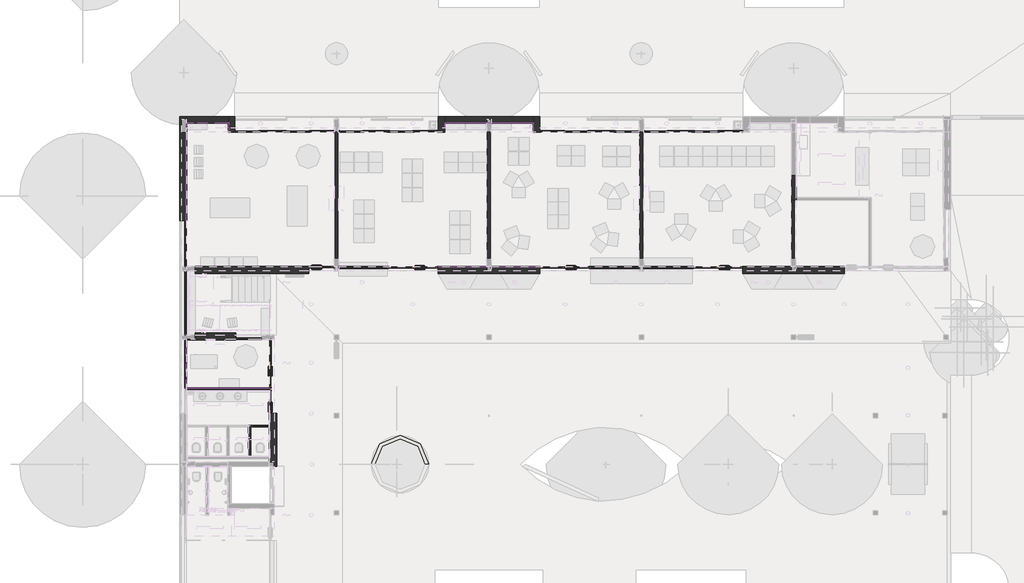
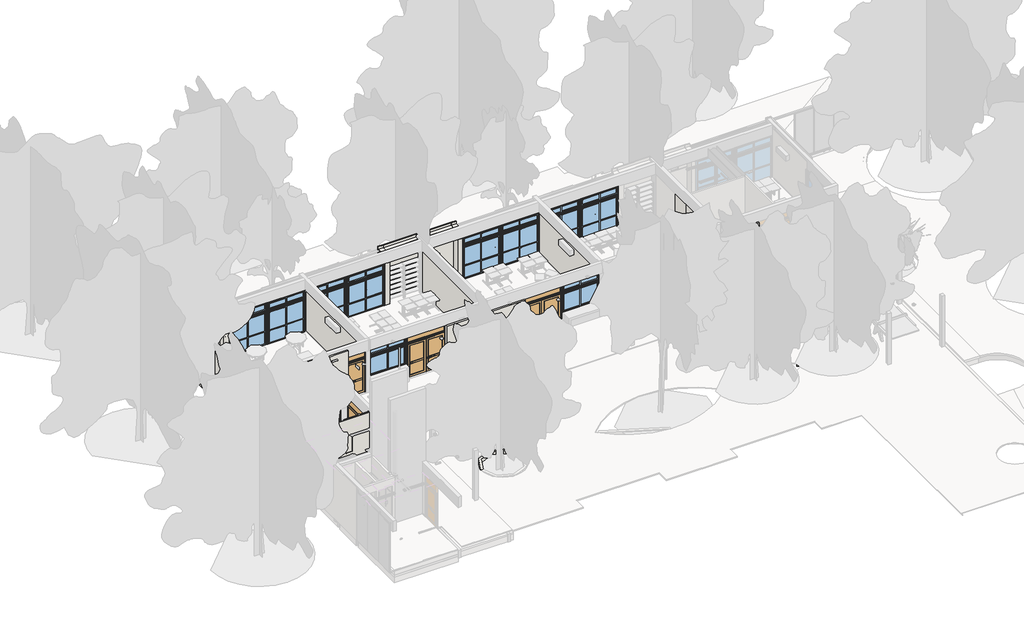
# One storey, part 5 of 22: 25 walls, 11 windows, 8 proxies, 7 doors.
"""IFC4 building model written with IfcOpenShell, lengths in millimetres."""

from ifc_helpers import new_model, si_unit, point, frame, frame_2d, origin, origin_with_axes, place, context, project, spatial, polyline, circle_curve, trimmed, segment, composite_curve, outline, extrude, faceted_brep, transform, mapped, element, save
from components import door_28f023a7, door_b16d659e, door_f8b2c67e, door_c8ef6ab0, door_3bfb12fa, a15_puerta_boxes_a15_puerta_boxes_85x150_d28bf8b2, window_bc9f6be7, window_6422c5cf, window_895a3c43, window_4296f7cd, window_2fd942e6, window_18074f74, window_fbff9aea, window_d2615f25, a16_ventana_pc_1_hoja_a16_5_ventana_pc_1_hoja_115x260_5fdb9e7e

model = new_model("IFC4")

# Units and contexts
model_context = context("Model", 3, world=origin())
ifc_project = project(units=[si_unit("LENGTHUNIT", "METRE", prefix="MILLI")], contexts=[model_context])

# Site, building, storey
site = spatial("IfcSite", under=ifc_project)
building = spatial("IfcBuilding", under=site)
storey = spatial("IfcBuildingStorey", under=building, Name="PLanta baja", Elevation=0.0)

# Proxies
placement = place(None, origin())
element("IfcBuildingElementProxy", 1, Name="23-TEL-JUNTA 10x10", ObjectType="23-TEL-JUNTA 10x10", at=placement, inside=storey, context=model_context, shape_type="SweptSolid", body=[
    extrude(outline(polyline([(19098.7173693, 31020.2304035), (19088.7173693, 31020.2304035), (19088.7173693, 31220.2304035), (19098.7173693, 31220.2304035), (19098.7173693, 31020.2304035)])), frame((0.0, 0.0, 2590.0), z_axis=(0.0, 0.0, 1.0), x_axis=(1.0, 0.0, 0.0)), (0.0, 0.0, 1.0), 10.0),
])
element("IfcBuildingElementProxy", 2, Name="23-TEL-JUNTA 10x10", ObjectType="23-TEL-JUNTA 10x10", at=placement, inside=storey, context=model_context, shape_type="SweptSolid", body=[
    extrude(outline(polyline([(19098.7173693, 31220.2304035), (19088.7173693, 31220.2304035), (19088.7173693, 31430.2304035), (19098.7173693, 31440.2304035), (19098.7173693, 31220.2304035)])), frame((0.0, 0.0, 3090.0), z_axis=(0.0, 0.0, 1.0), x_axis=(1.0, 0.0, 0.0)), (0.0, 0.0, 1.0), 10.0),
    extrude(outline(polyline([(15088.7173693, 31430.2304035), (15078.7173693, 31440.2304035), (19098.7173693, 31440.2304035), (19088.7173693, 31430.2304035), (15088.7173693, 31430.2304035)])), frame((0.0, 0.0, 3090.0), z_axis=(0.0, 0.0, 1.0), x_axis=(1.0, 0.0, 0.0)), (0.0, 0.0, 1.0), 10.0),
    extrude(outline(polyline([(15078.7173693, 31440.2304035), (15088.7173693, 31430.2304035), (15088.7173693, 31220.2304035), (15078.7173693, 31220.2304035), (15078.7173693, 31440.2304035)])), frame((0.0, 0.0, 3090.0), z_axis=(0.0, 0.0, 1.0), x_axis=(1.0, 0.0, 0.0)), (0.0, 0.0, 1.0), 10.0),
])
element("IfcBuildingElementProxy", 3, Name="23-TEL-JUNTA 10x10", ObjectType="23-TEL-JUNTA 10x10", at=placement, inside=storey, context=model_context, shape_type="SweptSolid", body=[
    extrude(outline(polyline([(3393.7173694, 31020.2304035), (3403.7173694, 31020.2304035), (3403.7173694, 27020.2304035), (3393.7173694, 27020.2304035), (3393.7173694, 31020.2304035)])), frame((0.0, 0.0, 3090.0), z_axis=(0.0, 0.0, 1.0), x_axis=(1.0, 0.0, 0.0)), (0.0, 0.0, 1.0), 10.0),
])
element("IfcBuildingElementProxy", 4, Name="23-TEL-JUNTA 10x10", ObjectType="23-TEL-JUNTA 10x10", at=placement, inside=storey, context=model_context, shape_type="SweptSolid", body=[
    extrude(outline(polyline([(3393.7173694, 31440.2304035), (3403.7173694, 31430.2304035), (3403.7173694, 31220.2304035), (3393.7173694, 31220.2304035), (3393.7173694, 31440.2304035)])), frame((0.0, 0.0, 3090.0), z_axis=(0.0, 0.0, 1.0), x_axis=(1.0, 0.0, 0.0)), (0.0, 0.0, 1.0), 10.0),
    extrude(outline(polyline([(3403.7173694, 31430.2304035), (3393.7173694, 31440.2304035), (5298.7173693, 31440.2304035), (5288.7173693, 31430.2304035), (3403.7173694, 31430.2304035)])), frame((0.0, 0.0, 3090.0), z_axis=(0.0, 0.0, 1.0), x_axis=(1.0, 0.0, 0.0)), (0.0, 0.0, 1.0), 10.0),
])
element("IfcBuildingElementProxy", 5, Name="23-TEL-JUNTA 10x10", ObjectType="23-TEL-JUNTA 10x10", at=placement, inside=storey, context=model_context, shape_type="SweptSolid", body=[
    extrude(outline(polyline([(5288.7173693, 31430.2304035), (5298.7173693, 31440.2304035), (5298.7173693, 31220.2304035), (5288.7173693, 31220.2304035), (5288.7173693, 31430.2304035)])), frame((0.0, 0.0, 3090.0), z_axis=(0.0, 0.0, 1.0), x_axis=(1.0, 0.0, 0.0)), (0.0, 0.0, 1.0), 10.0),
])
element("IfcBuildingElementProxy", 6, Name="23-TEL-JUNTA 10x10", ObjectType="23-TEL-JUNTA 10x10", at=placement, inside=storey, context=model_context, shape_type="SweptSolid", body=[
    extrude(outline(polyline([(5288.7173693, 31220.2304035), (5298.7173693, 31220.2304035), (5298.7173693, 31020.2304035), (5288.7173693, 31020.2304035), (5288.7173693, 31220.2304035)])), frame((0.0, 0.0, 2590.0), z_axis=(0.0, 0.0, 1.0), x_axis=(1.0, 0.0, 0.0)), (0.0, 0.0, 1.0), 10.0),
])
element("IfcBuildingElementProxy", 7, Name="23-TEL-JUNTA 10x10", ObjectType="23-TEL-JUNTA 10x10", at=placement, inside=storey, context=model_context, shape_type="SweptSolid", body=[
    extrude(outline(polyline([(3413.7173694, 19410.2304035), (3413.7173694, 19420.2304035), (7134.7173694, 19420.2304035), (7134.7173694, 19410.2304035), (3413.7173694, 19410.2304035)])), frame((0.0, 0.0, 3090.0), z_axis=(0.0, 0.0, 1.0), x_axis=(1.0, 0.0, 0.0)), (0.0, 0.0, 1.0), 10.0),
])
element("IfcBuildingElementProxy", 8, Name="23-TEL-JUNTA 10x10", ObjectType="23-TEL-JUNTA 10x10", at=placement, inside=storey, context=model_context, shape_type="SweptSolid", body=[
    extrude(outline(polyline([(14788.7173694, 24910.2304035), (14788.7173694, 24920.2304035), (19388.7173694, 24920.2304035), (19388.7173694, 24910.2304035), (14788.7173694, 24910.2304035)])), frame((0.0, 0.0, 2590.0), z_axis=(0.0, 0.0, 1.0), x_axis=(1.0, 0.0, 0.0)), (0.0, 0.0, 1.0), 10.0),
    extrude(outline(polyline([(28588.7173694, 24910.2304035), (28588.7173694, 24920.2304035), (33188.7173693, 24920.2304035), (33188.7173693, 24910.2304035), (28588.7173694, 24910.2304035)])), frame((0.0, 0.0, 2590.0), z_axis=(0.0, 0.0, 1.0), x_axis=(1.0, 0.0, 0.0)), (0.0, 0.0, 1.0), 10.0),
])

# Doors
door_shape = door_28f023a7(model_context)
element("IfcDoor", 9, ObjectType="A1 Puerta batiente doble  VF superior : A1.3 Puerta batiente doble  VF superior 225x260", at=placement, inside=storey, context=model_context, shape_type="MappedRepresentation", body=[
    mapped(door_shape, transform((20513.7173693, 24765.2304035, 0.0), x_axis=(-1.0, 0.0, 0.0), y_axis=(0.0, -1.0, 0.0), z_axis=(0.0, 0.0, 1.0))),
])
element("IfcDoor", 10, ObjectType="A1 Puerta batiente doble  VF superior : A1.3 Puerta batiente doble  VF superior 225x260", at=placement, inside=storey, context=model_context, shape_type="MappedRepresentation", body=[
    mapped(door_shape, transform((27463.7173694, 24765.2304035, 0.0), x_axis=(-1.0, 0.0, 0.0), y_axis=(0.0, -1.0, 0.0), z_axis=(0.0, 0.0, 1.0))),
])
door_2_shape = door_b16d659e(model_context)
element("IfcDoor", 11, ObjectType="A1 Puerta batiente doble  VF superior : A1.3 Puerta batiente doble  VF superior 225x260", at=placement, inside=storey, context=model_context, shape_type="MappedRepresentation", body=[
    mapped(door_2_shape, transform((13663.7173693, 24887.2304035, 0.0), x_axis=(-1.0, 0.0, 0.0), y_axis=(0.0, -1.0, 0.0), z_axis=(0.0, 0.0, 1.0))),
])
door_3_shape = door_f8b2c67e(model_context)
element("IfcDoor", 12, ObjectType="A2 Puerta batiente exterior con panel lateral VF superior : A2.1 Puerta batiente exterior con panel lateral 220x260", at=placement, inside=storey, context=model_context, shape_type="MappedRepresentation", body=[
    mapped(door_3_shape, transform((7201.7173694, 20520.2304035, 0.0), x_axis=(0.0, 1.0, 0.0), y_axis=(-1.0, 0.0, 0.0), z_axis=(0.0, 0.0, 1.0))),
])
door_4_shape = door_c8ef6ab0(model_context)
element("IfcDoor", 13, ObjectType="A3 Puerta batiente exterior VF superior : A3.3 Puerta batiente simple-exterior 115X260", at=placement, inside=storey, context=model_context, shape_type="MappedRepresentation", body=[
    mapped(door_4_shape, transform((9513.7173694, 24887.2304035, 0.0), x_axis=(-1.0, 0.0, 0.0), y_axis=(0.0, -1.0, 0.0), z_axis=(0.0, 0.0, 1.0))),
])
door_5_shape = door_3bfb12fa(model_context)
element("IfcDoor", 14, ObjectType="A3 Puerta batiente exterior VF superior : A3.2 Puerta batiente simple-exterior 105X260", at=placement, inside=storey, context=model_context, shape_type="MappedRepresentation", body=[
    mapped(door_5_shape, transform((7191.7173694, 18795.2304035, 0.0), x_axis=(0.0, -1.0, 0.0), y_axis=(1.0, 0.0, 0.0), z_axis=(0.0, 0.0, 1.0))),
])
a15_puerta_boxes_a15_puerta_boxes_85x150_shape = a15_puerta_boxes_a15_puerta_boxes_85x150_d28bf8b2(model_context)
element("IfcDoor", 15, ObjectType="A15 Puerta boxes : A15 Puerta boxes 85x150", at=placement, inside=storey, context=model_context, shape_type="MappedRepresentation", body=[
    mapped(a15_puerta_boxes_a15_puerta_boxes_85x150_shape, transform((6726.2173694, 17682.7304035, 300.0), x_axis=(1.0, 0.0, 0.0), y_axis=(0.0, 1.0, 0.0), z_axis=(0.0, 0.0, 1.0))),
])

# Walls
element("IfcWall", 16, ObjectType="TABI-INT/INT-M30a-13cm-PET", at=placement, inside=storey, context=model_context, shape_type="SweptSolid", body=[
    extrude(outline(polyline([(10123.7173694, 25320.2304035), (10123.7173694, 31020.2304035), (10253.7173694, 31020.2304035), (10253.7173694, 25320.2304035), (10123.7173694, 25320.2304035)])), origin_with_axes(), (0.0, 0.0, 1.0), 2600.0),
])
element("IfcWall", 17, ObjectType="TABI-INT/INT-M30a-13cm-PET", at=placement, inside=storey, context=model_context, shape_type="SweptSolid", body=[
    extrude(outline(polyline([(17023.7173694, 25320.2304035), (17023.7173694, 31020.2304035), (17153.7173694, 31020.2304035), (17153.7173694, 25320.2304035), (17023.7173694, 25320.2304035)])), origin_with_axes(), (0.0, 0.0, 1.0), 2600.0),
])
element("IfcWall", 18, ObjectType="TABI-INT/INT-M30a-13cm-PET", at=placement, inside=storey, context=model_context, shape_type="SweptSolid", body=[
    extrude(outline(polyline([(23923.7173694, 25320.2304035), (23923.7173694, 31020.2304035), (24053.7173694, 31020.2304035), (24053.7173694, 25320.2304035), (23923.7173694, 25320.2304035)])), origin_with_axes(), (0.0, 0.0, 1.0), 2600.0),
])
element("IfcWall", 19, ObjectType="TABI-INT/INT-M30d-11cm-hceram210cm-PET", at=placement, inside=storey, context=model_context, shape_type="SolidModel", body=[
    faceted_brep([(3413.7173694, 19420.2304035, 0.0), (7134.7173694, 19420.2304035, 0.0), (7134.7173694, 19405.2304035, 0.0), (3413.7173694, 19405.2304035, 0.0), (3413.7173694, 19405.2304035, 2100.0), (3413.7173694, 19405.2304035, 3100.0), (3413.7173694, 19410.2304035, 3100.0), (3413.7173694, 19410.2304035, 3090.0), (3413.7173694, 19420.2304035, 3090.0), (3413.7173694, 19420.2304035, 2610.0), (3413.7173694, 19420.2304035, 2100.0), (7134.7173694, 19420.2304035, 2100.0), (7134.7173694, 19420.2304035, 2610.0), (7134.7173694, 19420.2304035, 3090.0), (7134.7173694, 19410.2304035, 3090.0), (7134.7173694, 19410.2304035, 3100.0), (7134.7173694, 19405.2304035, 3100.0), (7134.7173694, 19405.2304035, 2100.0)], [[[0, 1, 2, 3]], [[0, 3, 4, 5, 6, 7, 8, 9, 10]], [[2, 1, 11, 12, 13, 14, 15, 16, 17]], [[3, 2, 17, 16, 5, 4]], [[1, 0, 10, 9, 8, 13, 12, 11]], [[16, 15, 6, 5]], [[13, 8, 7, 14]], [[15, 14, 7, 6]]]),
    faceted_brep([(3413.7173694, 19335.2304035, 0.0), (7134.7173694, 19335.2304035, 0.0), (7134.7173694, 19335.2304035, 2100.0), (7134.7173694, 19335.2304035, 3100.0), (3413.7173694, 19335.2304035, 3100.0), (3413.7173694, 19335.2304035, 2100.0), (3413.7173694, 19405.2304035, 0.0), (7134.7173694, 19405.2304035, 0.0), (3413.7173694, 19405.2304035, 3100.0), (3413.7173694, 19405.2304035, 2100.0), (7134.7173694, 19405.2304035, 2100.0), (7134.7173694, 19405.2304035, 3100.0)], [[[0, 1, 2, 3, 4, 5]], [[1, 0, 6, 7]], [[0, 5, 4, 8, 9, 6]], [[2, 1, 7, 10, 11, 3]], [[4, 3, 11, 8]], [[7, 6, 9, 8, 11, 10]]]),
    faceted_brep([(7134.7173694, 19335.2304035, 0.0), (3413.7173694, 19335.2304035, 0.0), (3413.7173694, 19335.2304035, 2100.0), (3413.7173694, 19335.2304035, 3100.0), (7134.7173694, 19335.2304035, 3100.0), (7134.7173694, 19335.2304035, 2100.0), (7134.7173694, 19320.2304035, 0.0), (3413.7173694, 19320.2304035, 0.0), (3413.7173694, 19320.2304035, 2100.0), (3413.7173694, 19320.2304035, 2110.0), (3413.7173694, 19320.2304035, 2113.3), (3413.7173694, 19320.2304035, 3100.0), (7134.7173694, 19320.2304035, 3100.0), (7134.7173694, 19320.2304035, 2113.3), (7134.7173694, 19320.2304035, 2110.0), (7134.7173694, 19320.2304035, 2100.0)], [[[0, 1, 2, 3, 4, 5]], [[1, 0, 6, 7]], [[2, 1, 7, 8, 9, 10, 11, 3]], [[0, 5, 4, 12, 13, 14, 15, 6]], [[7, 6, 15, 14, 13, 12, 11, 10, 9, 8]], [[4, 3, 11, 12]]]),
    extrude(outline(polyline([(7134.7173694, 19310.2304035), (3413.7173694, 19310.2304035), (3413.7173694, 19320.2304035), (7134.7173694, 19320.2304035), (7134.7173694, 19310.2304035)])), origin_with_axes(), (0.0, 0.0, 1.0), 2100.0),
    faceted_brep([(3413.7173694, 19310.2304035, 2113.3), (3413.7173694, 19310.2304035, 3100.0), (3413.7173694, 19320.2304035, 3100.0), (3413.7173694, 19320.2304035, 2113.3), (7134.7173694, 19310.2304035, 3100.0), (7134.7173694, 19310.2304035, 2113.3), (7134.7173694, 19320.1304035, 2113.3), (7134.7173694, 19320.2304035, 3100.0)], [[[0, 1, 2, 3]], [[4, 5, 6, 7]], [[1, 4, 7, 2]], [[5, 0, 3, 6]], [[4, 1, 0, 5]], [[7, 6, 3, 2]]]),
    extrude(outline(polyline([(3413.7173694, 19320.2304035), (7134.7173694, 19320.2304035), (7134.7173694, 19310.2304035), (3413.7173694, 19310.2304035), (3413.7173694, 19320.2304035)])), frame((0.0, 0.0, 2100.0), z_axis=(0.0, 0.0, 1.0), x_axis=(1.0, 0.0, 0.0)), (0.0, 0.0, 1.0), 10.0),
])
element("IfcWall", 20, ObjectType="MURO-EXT/INT-M1c-33cm-hceram210cm-PET-circulacion", at=placement, inside=storey, context=model_context, shape_type="Brep", body=[
    faceted_brep([(7148.7173694, 16070.2304035, 3100.0), (7148.7173694, 16220.2304035, 3100.0), (7148.7173694, 16320.2304035, 3100.0), (7148.7173694, 18270.2304035, 3100.0), (7148.7173694, 18270.2304035, 2103.3), (7148.7173694, 16320.2304035, 2103.3), (7148.7173694, 16310.3304035, 2103.3), (7148.7173694, 16070.2304035, 2103.3), (7148.7173694, 16070.2304035, 2100.0), (7148.7173694, 16310.3304035, 2100.0), (7148.7173694, 16320.2304035, 2100.0), (7148.7173694, 18270.2304035, 2100.0), (7148.7173694, 18270.2304035, 0.0), (7148.7173694, 16320.2304035, 0.0), (7148.7173694, 16310.2304035, 0.0), (7148.7173694, 16310.2304035, -50.0), (7148.7173694, 16220.2304035, -50.0), (7148.7173694, 16070.2304035, -50.0), (7478.7173694, 15870.2304035, -80.0), (7478.7173694, 18270.2304035, -80.0), (7478.7173694, 18270.2304035, 3100.0), (7478.7173694, 15870.2304035, 3100.0), (7368.7173693, 15870.2304035, -80.0), (7368.7173693, 16070.2304035, -80.0), (7168.7173694, 16070.2304035, -80.0), (7168.7173694, 18270.2304035, -80.0), (7368.7173693, 15870.2304035, 3100.0), (7368.7173693, 18270.2304035, 3100.0), (7168.7173693, 16070.2304035, 3100.0), (7168.7173693, 18270.2304035, 3100.0), (7168.7173694, 18270.2304035, 0.0), (7158.6173694, 18270.2304035, 2100.0), (7158.6173694, 18270.2304035, 2103.3), (7168.7173693, 18270.2304035, 2600.0), (7368.7173693, 18270.2304035, 2600.0), (7368.7173693, 16070.2304035, 2600.0), (7158.6173694, 16070.2304035, 2103.3), (7158.6173694, 16070.2304035, 2100.0), (7168.7173694, 16070.2304035, -50.0), (7168.7173693, 16070.2304035, 2600.0), (7168.7173694, 16310.2304035, 0.0), (7168.7173694, 16310.2304035, -50.0)], [[[0, 1, 2, 3, 4, 5, 6, 7]], [[8, 9, 10, 11, 12, 13, 14, 15, 16, 17]], [[18, 19, 20, 21]], [[19, 18, 22, 23, 24, 25]], [[18, 21, 26, 22]], [[21, 20, 27, 26]], [[3, 2, 1, 0, 28, 29]], [[20, 19, 25, 30, 12, 11, 31, 32, 4, 3, 29, 33, 34, 27]], [[23, 22, 26, 27, 34, 35]], [[0, 7, 36, 37, 8, 17, 38, 24, 23, 35, 39, 28]], [[31, 11, 10, 9, 8, 37]], [[32, 36, 7, 6, 5, 4]], [[31, 37, 36, 32]], [[39, 33, 29, 28]], [[33, 39, 35, 34]], [[30, 40, 14, 13, 12]], [[41, 40, 30, 25, 24, 38]], [[40, 41, 15, 14]], [[41, 38, 17, 16, 15]]]),
])
element("IfcWall", 21, ObjectType="MURO-INT/INT-M22c-12cm-hceram210cm-PET", at=placement, inside=storey, context=model_context, shape_type="Brep", body=[
    faceted_brep([(6303.7173694, 17720.2304035, 2100.0), (6303.7173694, 16320.2304035, 2100.0), (6303.7173694, 16320.2304035, 2091.0), (6303.7173694, 16320.2304035, 0.0), (6303.7173694, 17720.2304035, 0.0), (6303.7173694, 17720.2304035, 2091.0), (6303.7173694, 17720.2304035, 2091.5), (6183.7173694, 16320.2304035, 2100.0), (6183.7173694, 17720.2304035, 2100.0), (6183.7173694, 17720.2304035, 2091.5), (6183.7173694, 17720.2304035, 2091.0), (6183.7173694, 17720.2304035, 0.0), (6183.7173694, 16320.2304035, 0.0), (6183.7173694, 16320.2304035, 2091.0), (6293.7173694, 16320.2304035, -50.0), (6193.7173694, 16320.2304035, -50.0), (6193.7173694, 17720.2304035, -50.0), (6293.7173694, 17720.2304035, -50.0), (6293.7173694, 17720.2304035, 0.0), (6193.7173694, 17720.2304035, 0.0), (6192.7173694, 17711.2304035, 2100.5), (6192.7173694, 16320.2304035, 2100.5), (6294.7173694, 16320.2304035, 2100.5), (6294.7173694, 17711.2304035, 2100.5), (6192.7173694, 16320.2304035, 2100.0), (6193.7173694, 16320.2304035, 0.0), (6293.7173694, 16320.2304035, 0.0), (6294.7173694, 16320.2304035, 2100.0), (6192.7173694, 17711.2304035, 2100.0), (6294.7173694, 17711.2304035, 2100.0)], [[[0, 1, 2, 3, 4, 5, 6]], [[7, 8, 9, 10, 11, 12, 13]], [[14, 15, 16, 17]], [[11, 10, 9, 8, 0, 6, 5, 4, 18, 17, 16, 19]], [[20, 21, 22, 23]], [[24, 7, 13, 12, 25, 15, 14, 26, 3, 2, 1, 27, 22, 21]], [[24, 28, 29, 27, 1, 0, 8, 7]], [[28, 24, 21, 20]], [[27, 29, 23, 22]], [[28, 20, 23, 29]], [[26, 18, 4, 3]], [[19, 25, 12, 11]], [[18, 26, 14, 17]], [[25, 19, 16, 15]]]),
])
element("IfcWall", 22, ObjectType="MURO-INT/INT-M22c-12cm-hceram210cm-PET", at=placement, inside=storey, context=model_context, shape_type="SweptSolid", body=[
    extrude(outline(polyline([(5993.7173694, 18890.2304035), (5993.7173694, 19310.2304035), (6113.7173694, 19310.2304035), (6113.7173694, 18890.2304035), (5993.7173694, 18890.2304035)])), frame((0.0, 0.0, -40.0), z_axis=(0.0, 0.0, 1.0), x_axis=(1.0, 0.0, 0.0)), (0.0, 0.0, 1.0), 810.0),
])
element("IfcWall", 23, ObjectType="REVE-INT-Revoque-1.5cm-PET", at=placement, inside=storey, context=model_context, shape_type="Brep", body=[
    faceted_brep([(3388.7173694, 21605.2304035, 0.0), (3788.7173693, 21605.2304035, 0.0), (3788.7173693, 21605.2304035, 3100.0), (3408.7173694, 21605.2304035, 3100.0), (3393.7173694, 21605.2304035, 3100.0), (3388.7173694, 21605.2304035, 3100.0), (3788.7173693, 21620.2304035, 0.0), (3388.7173694, 21620.2304035, 0.0), (3388.7173694, 21620.2304035, 3100.0), (3788.7173693, 21620.2304035, 3100.0)], [[[0, 1, 2, 3, 4, 5]], [[6, 7, 8, 9]], [[1, 0, 7, 6]], [[1, 6, 9, 2]], [[7, 0, 5, 8]], [[5, 4, 3, 2, 9, 8]]]),
])
element("IfcWall", 24, ObjectType="TABI-INT/INT-M30e-11.5cm-PET", at=placement, inside=storey, context=model_context, shape_type="SweptSolid", body=[
    extrude(outline(polyline([(30803.7173693, 25320.2304035), (30803.7173693, 27940.2304035), (30918.7173693, 27940.2304035), (30918.7173693, 25320.2304035), (30803.7173693, 25320.2304035)])), origin_with_axes(), (0.0, 0.0, 1.0), 2600.0),
])
element("IfcWall", 25, ObjectType="CORD-C2-Cordoneta adoquines-15x20cm-PET", at=placement, inside=storey, context=model_context, shape_type="SweptSolid", body=[
    extrude(outline(composite_curve([segment(polyline([(11919.1695741, 15970.2304035), (11769.1695741, 15970.2304035)]), True, "CONTINUOUS"), segment(trimmed(circle_curve(frame_2d((13066.2072458, 15970.2304035)), 1297.0376717), [point((11769.1695741, 15970.2304035))], [point((14363.2449174, 15970.2304035))], False, "CARTESIAN"), True, "CONTINUOUS"), segment(polyline([(14363.2449174, 15970.2304035), (14213.2449174, 15970.2304035)]), True, "CONTINUOUS"), segment(trimmed(circle_curve(frame_2d((13066.2072458, 15970.2304035)), 1147.0376717), [point((14213.2449174, 15970.2304035))], [point((11919.1695741, 15970.2304035))], True, "CARTESIAN"), True, "CONTINUOUS")], self_intersect=False)), frame((0.0, 0.0, -300.0), z_axis=(0.0, 0.0, 1.0), x_axis=(1.0, 0.0, 0.0)), (0.0, 0.0, 1.0), 210.0),
])
element("IfcWall", 26, ObjectType="CORD-C2-Cordoneta adoquines-15x20cm-PET", at=placement, inside=storey, context=model_context, shape_type="SweptSolid", body=[
    extrude(outline(composite_curve([segment(polyline([(30526.5921404, 16145.6559879), (31904.0014058, 17059.4058949), (31986.3925361, 16934.0579574), (30654.1035229, 16050.2400592)]), True, "CONTINUOUS"), segment(trimmed(circle_curve(frame_2d((28089.0961946, 12755.3399449)), 4175.5992812), [point((30654.1035229, 16050.2400592))], [point((30526.5921404, 16145.6559879))], True, "CARTESIAN"), True, "CONTINUOUS")], self_intersect=False)), frame((0.0, 0.0, -300.0), z_axis=(0.0, 0.0, 1.0), x_axis=(1.0, 0.0, 0.0)), (0.0, 0.0, 1.0), 210.0),
])
element("IfcWall", 27, ObjectType="REVE-INT-Revoque-1.5cm-PET", at=placement, inside=storey, context=model_context, shape_type="Brep", body=[
    faceted_brep([(3393.7173694, 21605.2304035, 2600.0), (3393.7173694, 19420.2304035, 2600.0), (3393.7173694, 19320.2304035, 2600.0), (3393.7173694, 19310.2304035, 2600.0), (3393.7173694, 19310.2304035, 2645.5), (3393.7173694, 19310.2304035, 3100.0), (3393.7173694, 21605.2304035, 3100.0), (3408.7173694, 21605.2304035, 2600.0), (3408.7173694, 21605.2304035, 3100.0), (3408.7173694, 19310.2304035, 3100.0), (3408.7173694, 19310.2304035, 2645.5), (3408.7173694, 19310.2304035, 2600.0), (3408.7173694, 19320.2304035, 2600.0), (3408.7173694, 19420.2304035, 2600.0)], [[[0, 1, 2, 3, 4, 5, 6]], [[7, 8, 9, 10, 11, 12, 13]], [[3, 2, 1, 0, 7, 13, 12, 11]], [[5, 4, 3, 11, 10, 9]], [[6, 5, 9, 8]], [[0, 6, 8, 7]]]),
])
element("IfcWall", 28, ObjectType="TABI-INT/INT-M30b-20cm-PET", at=placement, inside=storey, context=model_context, shape_type="Brep", body=[
    faceted_brep([(30803.7173693, 29050.2304035, 0.0), (30803.7173693, 27940.2304035, 0.0), (30803.7173693, 27940.2304035, 2600.0), (30803.7173693, 29050.2304035, 2600.0), (31003.7173693, 29050.2304035, 3100.0), (31003.7173693, 28040.2304035, 3100.0), (31003.7173693, 27940.2304035, 3100.0), (31003.7173693, 27940.2304035, 0.0), (31003.7173693, 28040.2304035, 0.0), (31003.7173693, 28047.2304035, 0.0), (31003.7173693, 29050.2304035, 0.0), (31003.7173693, 29050.2304035, 900.0), (31003.7173693, 29050.2304035, 2100.0), (31003.7173693, 28040.2304035, 2100.0), (31003.7173693, 28040.2304035, 2103.3), (31003.7173693, 29050.2304035, 2103.3), (30988.7173693, 29050.2304035, 3100.0), (30988.7173693, 27940.2304035, 3100.0), (30988.7173693, 27940.2304035, 2600.0), (30918.7173693, 27940.2304035, 2600.0), (30918.7173693, 27940.2304035, 0.0), (30988.7173693, 27940.2304035, 0.0), (30988.7173693, 29050.2304035, 0.0), (30988.7173693, 29050.2304035, 2600.0), (30994.2173693, 29050.2304035, 2103.3), (30994.2173693, 29050.2304035, 2100.0), (30994.2173693, 28040.2304035, 2100.0), (30994.2173693, 28040.2304035, 2103.3)], [[[0, 1, 2, 3]], [[4, 5, 6, 7, 8, 9, 10, 11, 12, 13, 14, 15]], [[6, 5, 4, 16, 17]], [[7, 6, 17, 18, 19, 2, 1, 20, 21]], [[1, 0, 22, 21, 20]], [[22, 10, 9, 8, 7, 21]], [[22, 0, 3, 23, 16, 4, 15, 24, 25, 12, 11, 10]], [[25, 26, 13, 12]], [[27, 26, 25, 24]], [[27, 24, 15, 14]], [[26, 27, 14, 13]], [[18, 23, 3, 2, 19]], [[23, 18, 17, 16]]]),
])
element("IfcWall", 29, ObjectType="REVE-INT-Revoque-1.5cm-PET", at=placement, inside=storey, context=model_context, shape_type="SweptSolid", body=[
    extrude(outline(polyline([(7148.7173694, 19310.2304035), (7148.7173694, 18270.2304035), (7133.7173694, 18270.2304035), (7133.7173694, 19310.2304035), (7148.7173694, 19310.2304035)])), frame((0.0, 0.0, 2600.0), z_axis=(0.0, 0.0, 1.0), x_axis=(1.0, 0.0, 0.0)), (0.0, 0.0, 1.0), 500.0),
])
element("IfcWall", 30, ObjectType="MURO-EXT/INT-M1a-30cm-PET", at=placement, inside=storey, context=model_context, shape_type="SweptSolid", body=[
    extrude(outline(polyline([(31730.2304035, 3260.0), (31730.2304035, -50.0), (31430.2304035, -50.0), (31430.2304035, 3090.0), (31440.2304035, 3090.0), (31440.2304035, 3100.0), (31680.2304035, 3100.0), (31680.2304035, 3260.0), (31730.2304035, 3260.0)])), frame((3403.7173694, 0.0, 0.0), z_axis=(1.0, 0.0, 0.0), x_axis=(0.0, 1.0, 0.0)), (0.0, 0.0, 1.0), 1885.0),
])
element("IfcWall", 31, ObjectType="MURO-EXT/INT-M1a-30cm-PET", at=placement, inside=storey, context=model_context, shape_type="Brep", body=[
    faceted_brep([(15088.7173693, 31430.2304035, -50.0), (16988.7173694, 31430.2304035, -50.0), (16988.7173694, 31430.2304035, 3090.0), (15088.7173693, 31430.2304035, 3090.0), (17188.7173694, 31430.2304035, -50.0), (19088.7173693, 31430.2304035, -50.0), (19088.7173693, 31430.2304035, 3090.0), (17188.7173694, 31430.2304035, 3090.0), (19088.7173693, 31730.2304035, -50.0), (15088.7173693, 31730.2304035, -50.0), (15088.7173693, 31730.2304035, 3260.0), (19088.7173693, 31730.2304035, 3260.0), (17188.7173694, 31620.2304035, -50.0), (16988.7173694, 31620.2304035, -50.0), (15088.7173693, 31680.2304035, 3260.0), (19088.7173693, 31680.2304035, 3260.0), (15088.7173693, 31440.2304035, 3090.0), (15088.7173693, 31440.2304035, 3100.0), (15088.7173693, 31680.2304035, 3100.0), (19088.7173693, 31680.2304035, 3100.0), (19088.7173693, 31440.2304035, 3100.0), (19088.7173693, 31440.2304035, 3090.0), (17188.7173694, 31620.2304035, 2600.0), (17188.7173694, 31620.2304035, 3100.0), (16988.7173694, 31620.2304035, 3100.0), (16988.7173694, 31620.2304035, 2600.0), (16988.7173694, 31440.2304035, 3100.0), (16988.7173694, 31440.2304035, 3090.0), (17188.7173694, 31440.2304035, 3090.0), (17188.7173694, 31440.2304035, 3100.0)], [[[0, 1, 2, 3]], [[4, 5, 6, 7]], [[8, 9, 10, 11]], [[9, 8, 5, 4, 12, 13, 1, 0]], [[11, 10, 14, 15]], [[9, 0, 3, 16, 17, 18, 14, 10]], [[5, 8, 11, 15, 19, 20, 21, 6]], [[13, 12, 22, 23, 24, 25]], [[1, 13, 25, 24, 26, 27, 2]], [[12, 4, 7, 28, 29, 23, 22]], [[16, 3, 2, 27]], [[6, 21, 28, 7]], [[17, 16, 27, 26]], [[21, 20, 29, 28]], [[19, 18, 17, 26, 24, 23, 29, 20]], [[18, 19, 15, 14]]]),
])
element("IfcWall", 32, ObjectType="MURO-EXT/INT-M1a-30cm-PET", at=placement, inside=storey, context=model_context, shape_type="Brep", body=[
    faceted_brep([(5288.7173693, 31730.2304035, -50.0), (5288.7173693, 31430.2304035, -50.0), (5288.7173693, 31020.2304035, -50.0), (5288.7173693, 31020.2304035, 2590.0), (5288.7173693, 31220.2304035, 2590.0), (5288.7173693, 31220.2304035, 3090.0), (5288.7173693, 31430.2304035, 3090.0), (5288.7173693, 31440.2304035, 3090.0), (5288.7173693, 31440.2304035, 3100.0), (5288.7173693, 31680.2304035, 3100.0), (5288.7173693, 31680.2304035, 3260.0), (5288.7173693, 31730.2304035, 3260.0), (5588.7173693, 31020.2304035, -50.0), (5588.7173693, 31730.2304035, -50.0), (5588.7173693, 31730.2304035, 3100.0), (5588.7173693, 31730.2304035, 3260.0), (5588.7173693, 31680.2304035, 3260.0), (5588.7173693, 31680.2304035, 3100.0), (5588.7173693, 31220.2304035, 3100.0), (5588.7173693, 31220.2304035, 2600.0), (5588.7173693, 31020.2304035, 2600.0), (5298.7173693, 31020.2304035, 2600.0), (5298.7173693, 31020.2304035, 2590.0), (5298.7173693, 31440.2304035, 3100.0), (5298.7173693, 31440.2304035, 3090.0), (5298.7173693, 31220.2304035, 3090.0), (5298.7173693, 31220.2304035, 3100.0), (5298.7173693, 31220.2304035, 2590.0), (5298.7173693, 31220.2304035, 2600.0)], [[[0, 1, 2, 3, 4, 5, 6, 7, 8, 9, 10, 11]], [[12, 13, 14, 15, 16, 17, 18, 19, 20]], [[2, 1, 0, 13, 12]], [[2, 12, 20, 21, 22, 3]], [[15, 11, 10, 16]], [[0, 11, 15, 14, 13]], [[23, 24, 25, 26]], [[24, 23, 8, 7]], [[25, 24, 7, 6, 5]], [[27, 28, 19, 18, 26, 25, 5, 4]], [[28, 27, 22, 21]], [[27, 4, 3, 22]], [[19, 28, 21, 20]], [[17, 9, 8, 23, 26, 18]], [[9, 17, 16, 10]]]),
])
element("IfcWall", 33, ObjectType="MURO-EXT/INT-M1a-30cm-PET", at=placement, inside=storey, context=model_context, shape_type="Brep", body=[
    faceted_brep([(14788.7173693, 31730.2304035, -50.0), (14788.7173693, 31020.2304035, -50.0), (14788.7173693, 31020.2304035, 2600.0), (14788.7173693, 31220.2304035, 2600.0), (14788.7173693, 31220.2304035, 3100.0), (14788.7173693, 31680.2304035, 3100.0), (14788.7173693, 31680.2304035, 3260.0), (14788.7173693, 31730.2304035, 3260.0), (14788.7173693, 31730.2304035, 3100.0), (15088.7173693, 31020.2304035, -50.0), (15088.7173693, 31430.2304035, -50.0), (15088.7173693, 31730.2304035, -50.0), (15088.7173693, 31730.2304035, 3260.0), (15088.7173693, 31680.2304035, 3260.0), (15088.7173693, 31680.2304035, 3100.0), (15088.7173693, 31440.2304035, 3100.0), (15088.7173693, 31440.2304035, 3090.0), (15088.7173693, 31430.2304035, 3090.0), (15088.7173693, 31220.2304035, 3090.0), (15088.7173693, 31220.2304035, 2600.0), (15088.7173693, 31020.2304035, 2600.0), (15078.7173693, 31440.2304035, 3090.0), (15078.7173693, 31220.2304035, 3090.0), (15078.7173693, 31440.2304035, 3100.0), (15078.7173693, 31220.2304035, 3100.0)], [[[0, 1, 2, 3, 4, 5, 6, 7, 8]], [[9, 10, 11, 12, 13, 14, 15, 16, 17, 18, 19, 20]], [[1, 0, 11, 10, 9]], [[1, 9, 20, 2]], [[12, 7, 6, 13]], [[11, 0, 8, 7, 12]], [[21, 22, 18, 17, 16]], [[23, 21, 16, 15]], [[22, 21, 23, 24]], [[19, 3, 2, 20]], [[3, 19, 18, 22, 24, 4]], [[14, 5, 4, 24, 23, 15]], [[5, 14, 13, 6]]]),
])
element("IfcWall", 34, ObjectType="MURO-EXT/INT-M1a-30cm-PET", at=placement, inside=storey, context=model_context, shape_type="Brep", body=[
    faceted_brep([(19388.7173693, 31020.2304035, -50.0), (19388.7173693, 31730.2304035, -50.0), (19388.7173693, 31730.2304035, 3100.0), (19388.7173693, 31730.2304035, 3260.0), (19388.7173693, 31680.2304035, 3260.0), (19388.7173693, 31680.2304035, 3100.0), (19388.7173693, 31220.2304035, 3100.0), (19388.7173693, 31220.2304035, 2600.0), (19388.7173693, 31020.2304035, 2600.0), (19088.7173693, 31730.2304035, -50.0), (19088.7173693, 31430.2304035, -50.0), (19088.7173693, 31020.2304035, -50.0), (19088.7173693, 31020.2304035, 2590.0), (19088.7173693, 31220.2304035, 2590.0), (19088.7173693, 31220.2304035, 3090.0), (19088.7173693, 31430.2304035, 3090.0), (19088.7173693, 31440.2304035, 3090.0), (19088.7173693, 31440.2304035, 3100.0), (19088.7173693, 31680.2304035, 3100.0), (19088.7173693, 31680.2304035, 3260.0), (19088.7173693, 31730.2304035, 3260.0), (19098.7173693, 31020.2304035, 2600.0), (19098.7173693, 31020.2304035, 2590.0), (19098.7173693, 31220.2304035, 2590.0), (19098.7173693, 31220.2304035, 2600.0), (19098.7173693, 31220.2304035, 3100.0), (19098.7173693, 31220.2304035, 3090.0), (19098.7173693, 31440.2304035, 3090.0), (19098.7173693, 31440.2304035, 3100.0)], [[[0, 1, 2, 3, 4, 5, 6, 7, 8]], [[9, 10, 11, 12, 13, 14, 15, 16, 17, 18, 19, 20]], [[1, 0, 11, 10, 9]], [[3, 20, 19, 4]], [[11, 0, 8, 21, 22, 12]], [[1, 9, 20, 3, 2]], [[23, 24, 7, 6, 25, 26, 14, 13]], [[23, 13, 12, 22]], [[24, 23, 22, 21]], [[26, 27, 16, 15, 14]], [[27, 26, 25, 28]], [[27, 28, 17, 16]], [[7, 24, 21, 8]], [[5, 18, 17, 28, 25, 6]], [[18, 5, 4, 19]]]),
])
element("IfcWall", 35, ObjectType="MURO-EXT/INT-M1a-32.5cm-PET", at=placement, inside=storey, context=model_context, shape_type="Brep", body=[
    faceted_brep([(3078.7173694, 31730.2304035, -50.0), (3078.7173694, 27020.2304035, -50.0), (3078.7173694, 27020.2304035, 3100.0), (3078.7173694, 27020.2304035, 3260.0), (3078.7173694, 31730.2304035, 3260.0), (3403.7173694, 27020.2304035, -50.0), (3403.7173694, 31430.2304035, -50.0), (3403.7173694, 31730.2304035, -50.0), (3403.7173694, 31730.2304035, 3260.0), (3403.7173694, 31680.2304035, 3260.0), (3403.7173694, 31680.2304035, 3100.0), (3403.7173694, 31440.2304035, 3100.0), (3403.7173694, 31440.2304035, 3090.0), (3403.7173694, 31430.2304035, 3090.0), (3403.7173694, 31220.2304035, 3090.0), (3403.7173694, 31220.2304035, 3260.0), (3403.7173694, 31020.2304035, 3260.0), (3403.7173694, 31020.2304035, 3090.0), (3403.7173694, 27020.2304035, 3090.0), (3388.7173693, 31620.2304035, -50.0), (3188.7173693, 31620.2304035, -50.0), (3188.7173693, 31020.2304035, -50.0), (3388.7173693, 31020.2304035, -50.0), (3393.7173694, 27020.2304035, 3090.0), (3393.7173694, 27020.2304035, 3100.0), (3388.7173693, 27020.2304035, 3100.0), (3388.7173693, 27020.2304035, 2600.0), (3188.7173693, 27020.2304035, 2600.0), (3188.7173693, 27020.2304035, 3100.0), (3128.7173693, 27020.2304035, 3100.0), (3128.7173693, 27020.2304035, 3260.0), (3128.7173693, 31680.2304035, 3260.0), (3388.7173693, 31220.2304035, 3260.0), (3388.7173693, 31020.2304035, 3260.0), (3393.7173694, 31020.2304035, 3090.0), (3388.7173693, 31020.2304035, 3100.0), (3393.7173694, 31020.2304035, 3100.0), (3393.7173694, 31220.2304035, 3090.0), (3393.7173694, 31440.2304035, 3090.0), (3393.7173694, 31440.2304035, 3100.0), (3393.7173694, 31220.2304035, 3100.0), (3388.7173693, 31220.2304035, 3100.0), (3188.7173693, 31020.2304035, 2600.0), (3188.7173693, 31620.2304035, 2600.0), (3188.7173693, 31620.2304035, 3100.0), (3388.7173693, 31020.2304035, 2600.0), (3388.7173693, 31620.2304035, 3100.0), (3388.7173693, 31620.2304035, 2600.0), (3128.7173693, 31680.2304035, 3100.0)], [[[0, 1, 2, 3, 4]], [[5, 6, 7, 8, 9, 10, 11, 12, 13, 14, 15, 16, 17, 18]], [[1, 0, 7, 6, 5], [19, 20, 21, 22]], [[1, 5, 18, 23, 24, 25, 26, 27, 28, 29, 30, 3, 2]], [[4, 3, 30, 31, 9, 8]], [[16, 15, 32, 33]], [[0, 4, 8, 7]], [[34, 17, 16, 33, 35, 36]], [[17, 34, 23, 18]], [[34, 36, 24, 23]], [[37, 14, 13, 12, 38]], [[39, 38, 12, 11]], [[14, 37, 40, 41, 32, 15]], [[37, 38, 39, 40]], [[28, 27, 42, 21, 20, 43, 44]], [[27, 26, 45, 42]], [[26, 25, 35, 33, 32, 41, 46, 47, 19, 22, 45]], [[44, 43, 20, 19, 47, 46]], [[36, 35, 25, 24]], [[48, 29, 28, 44, 46, 41, 40, 39, 11, 10]], [[29, 48, 31, 30]], [[31, 48, 10, 9]], [[21, 42, 45, 22]]]),
])
element("IfcWall", 36, ObjectType="MURO-EXT/INT-M1a-32.5cm-PET", at=placement, inside=storey, context=model_context, shape_type="Brep", body=[
    faceted_brep([(3788.7173693, 21605.2304035, -50.0), (5618.7173693, 21605.2304035, -50.0), (5618.7173693, 21605.2304035, 3100.0), (4068.7173693, 21605.2304035, 3100.0), (3868.7173693, 21605.2304035, 3100.0), (3788.7173693, 21605.2304035, 3100.0), (5618.7173693, 21930.2304035, -50.0), (3788.7173693, 21930.2304035, -50.0), (3788.7173693, 21930.2304035, 3260.0), (5618.7173693, 21930.2304035, 3260.0), (3788.7173693, 21620.2304035, -50.0), (3788.7173693, 21820.2304035, -50.0), (5618.7173693, 21820.2304035, 3260.0), (5618.7173693, 21820.2304035, 2600.0), (5618.7173693, 21620.2304035, 2600.0), (5618.7173693, 21620.2304035, 3100.0), (3788.7173693, 21820.2304035, 3260.0), (3838.7173693, 21820.2304035, 3260.0), (3838.7173693, 21880.2304035, 3260.0), (5568.7173693, 21880.2304035, 3260.0), (5568.7173693, 21820.2304035, 3260.0), (3788.7173693, 21620.2304035, 3100.0), (3788.7173693, 21620.2304035, 2600.0), (3788.7173693, 21820.2304035, 2600.0), (5568.7173693, 21820.2304035, 3100.0), (3838.7173693, 21820.2304035, 3100.0), (5568.7173693, 21880.2304035, 3100.0), (3838.7173693, 21880.2304035, 3100.0)], [[[0, 1, 2, 3, 4, 5]], [[6, 7, 8, 9]], [[1, 0, 10, 11, 7, 6]], [[6, 9, 12, 13, 14, 15, 2, 1]], [[9, 8, 16, 17, 18, 19, 20, 12]], [[8, 7, 11, 10, 0, 5, 21, 22, 23, 16]], [[14, 22, 21, 15]], [[22, 14, 13, 23]], [[23, 13, 12, 20, 24, 25, 17, 16]], [[3, 2, 15, 21, 5, 4]], [[24, 26, 27, 25]], [[27, 26, 19, 18]], [[25, 27, 18, 17]], [[26, 24, 20, 19]]]),
])
element("IfcWall", 37, ObjectType="MURO-EXT/INT-M1a-32.5cm-PET", at=placement, inside=storey, context=model_context, shape_type="Brep", body=[
    faceted_brep([(3788.7173693, 24610.2304035, -50.0), (8938.7173694, 24610.2304035, -50.0), (8938.7173694, 24610.2304035, 3100.0), (7188.7173693, 24610.2304035, 3100.0), (7188.7173693, 24610.2304035, 3260.0), (3788.7173693, 24610.2304035, 3260.0), (8938.7173694, 24935.2304035, -50.0), (3788.7173693, 24935.2304035, -50.0), (3788.7173693, 24935.2304035, 3100.0), (8938.7173694, 24935.2304035, 3100.0), (8938.7173694, 24920.2304035, 3100.0), (8938.7173694, 24920.2304035, 2600.0), (8938.7173694, 24720.2304035, 2600.0), (8938.7173694, 24720.2304035, 3100.0), (3788.7173693, 24720.2304035, 3260.0), (7188.7173693, 24660.2304035, 3260.0), (3838.7173694, 24660.2304035, 3260.0), (3838.7173694, 24720.2304035, 3260.0), (3788.7173693, 24720.2304035, 2600.0), (3788.7173693, 24920.2304035, 2600.0), (3788.7173693, 24920.2304035, 3100.0), (3838.7173694, 24720.2304035, 3100.0), (7188.7173693, 24720.2304035, 3100.0), (3838.7173694, 24660.2304035, 3100.0), (7188.7173693, 24660.2304035, 3100.0)], [[[0, 1, 2, 3, 4, 5]], [[6, 7, 8, 9]], [[1, 0, 7, 6]], [[1, 6, 9, 10, 11, 12, 13, 2]], [[14, 5, 4, 15, 16, 17]], [[0, 5, 14, 18, 19, 20, 8, 7]], [[12, 18, 14, 17, 21, 22, 13]], [[18, 12, 11, 19]], [[19, 11, 10, 20]], [[9, 8, 20, 10]], [[21, 23, 24, 3, 2, 13, 22]], [[24, 23, 16, 15]], [[23, 21, 17, 16]], [[3, 24, 15, 4]]]),
])
element("IfcWall", 38, ObjectType="MURO-EXT/INT-M2a-31cm-PET", at=placement, inside=storey, context=model_context, shape_type="Brep", body=[
    faceted_brep([(19388.7173694, 24610.2304035, 2600.0), (14788.7173694, 24610.2304035, 2600.0), (14788.7173694, 24610.2304035, 70.0), (14788.7173694, 24610.2304035, 0.0), (14788.7173694, 24610.2304035, -1.0153846), (19388.7173694, 24610.2304035, -1.0192509), (19388.7173694, 24610.2304035, 0.0), (19388.7173694, 24610.2304035, 70.0), (16988.7173694, 24920.2304035, -50.0), (14788.7173694, 24920.2304035, -50.0), (14788.7173694, 24920.2304035, 2590.0), (16988.7173694, 24920.2304035, 2590.0), (19388.7173694, 24920.2304035, -50.0), (17188.7173694, 24920.2304035, -50.0), (17188.7173694, 24920.2304035, 2590.0), (19388.7173694, 24920.2304035, 2590.0), (16988.7173694, 24720.2304035, -50.0), (17188.7173694, 24720.2304035, -50.0), (19388.7173694, 24720.2304035, -50.0), (19388.7173694, 24610.6825335, -50.0), (14788.7173694, 24610.6825335, -50.0), (14788.7173694, 24720.2304035, -50.0), (19388.7173694, 24910.2304035, 2590.0), (19388.7173694, 24910.2304035, 2600.0), (17188.7173694, 24910.2304035, 2600.0), (17188.7173694, 24720.2304035, 2600.0), (16988.7173694, 24720.2304035, 2600.0), (16988.7173694, 24910.2304035, 2600.0), (14788.7173694, 24910.2304035, 2600.0), (14788.7173694, 24910.2304035, 2590.0), (16988.7173694, 24910.2304035, 2590.0), (17188.7173694, 24910.2304035, 2590.0)], [[[0, 1, 2, 3, 4, 5, 6, 7]], [[8, 9, 10, 11]], [[12, 13, 14, 15]], [[9, 8, 16, 17, 13, 12, 18, 19, 20, 21]], [[0, 7, 6, 5, 19, 18, 12, 15, 22, 23]], [[1, 0, 23, 24, 25, 26, 27, 28]], [[2, 1, 28, 29, 10, 9, 21, 20, 4, 3]], [[26, 16, 8, 11, 30, 27]], [[16, 26, 25, 17]], [[17, 25, 24, 31, 14, 13]], [[29, 30, 11, 10]], [[31, 22, 15, 14]], [[30, 29, 28, 27]], [[22, 31, 24, 23]], [[5, 4, 20, 19]]]),
])
element("IfcWall", 39, ObjectType="MURO-EXT/INT-M2a-31cm-PET", at=placement, inside=storey, context=model_context, shape_type="Brep", body=[
    faceted_brep([(28588.7173694, 24610.2304035, -50.0), (33188.7173693, 24610.2304035, -50.0), (33188.7173693, 24610.2304035, 0.0), (33188.7173693, 24610.2304035, 70.0), (33188.7173693, 24610.2304035, 2600.0), (28588.7173694, 24610.2304035, 2600.0), (28588.7173694, 24610.2304035, 70.0), (28588.7173694, 24610.2304035, 0.0), (30788.7173693, 24920.2304035, -50.0), (28588.7173694, 24920.2304035, -50.0), (28588.7173694, 24920.2304035, 2590.0), (30788.7173693, 24920.2304035, 2590.0), (33188.7173693, 24920.2304035, -50.0), (30988.7173693, 24920.2304035, -50.0), (30988.7173693, 24920.2304035, 2590.0), (33188.7173693, 24920.2304035, 2590.0), (30788.7173693, 24720.2304035, -50.0), (30988.7173693, 24720.2304035, -50.0), (33188.7173693, 24910.2304035, 2590.0), (33188.7173693, 24910.2304035, 2600.0), (30988.7173693, 24910.2304035, 2600.0), (30988.7173693, 24720.2304035, 2600.0), (30788.7173693, 24720.2304035, 2600.0), (30788.7173693, 24910.2304035, 2600.0), (28588.7173694, 24910.2304035, 2600.0), (28588.7173694, 24910.2304035, 2590.0), (30788.7173693, 24910.2304035, 2590.0), (30988.7173693, 24910.2304035, 2590.0)], [[[0, 1, 2, 3, 4, 5, 6, 7]], [[8, 9, 10, 11]], [[12, 13, 14, 15]], [[1, 0, 9, 8, 16, 17, 13, 12]], [[1, 12, 15, 18, 19, 4, 3, 2]], [[5, 4, 19, 20, 21, 22, 23, 24]], [[9, 0, 7, 6, 5, 24, 25, 10]], [[22, 16, 8, 11, 26, 23]], [[16, 22, 21, 17]], [[17, 21, 20, 27, 14, 13]], [[25, 26, 11, 10]], [[27, 18, 15, 14]], [[26, 25, 24, 23]], [[18, 27, 20, 19]]]),
])
element("IfcWall", 40, ObjectType="MURO-INT/INT-M20b-15.5cm-PET", at=placement, inside=storey, context=model_context, shape_type="Brep", body=[
    faceted_brep([(31609.7173693, 29060.2304035, 828.0), (31003.7173693, 29060.2304035, 828.0), (31003.7173693, 29060.2304035, 0.0), (31003.7173693, 29060.2304035, -50.0), (31543.7173693, 29060.2304035, -50.0), (31543.7173693, 29060.2304035, 0.0), (31609.7173693, 29060.2304035, 0.0), (31003.7173693, 29215.2304035, 828.0), (31609.7173693, 29215.2304035, 828.0), (31609.7173693, 29215.2304035, 0.0), (31543.7173693, 29215.2304035, 0.0), (31543.7173693, 29215.2304035, -50.0), (31003.7173693, 29215.2304035, -50.0), (31003.7173693, 29215.2304035, 0.0)], [[[0, 1, 2, 3, 4, 5, 6]], [[7, 8, 9, 10, 11, 12, 13]], [[3, 12, 11, 4]], [[8, 0, 6, 9]], [[12, 3, 2, 1, 7, 13]], [[1, 0, 8, 7]], [[5, 10, 9, 6]], [[10, 5, 4, 11]]]),
])

# Windows
window_shape = window_bc9f6be7(model_context)
element("IfcWindow", 41, ObjectType="A7 Ventana_Corrediza_PC_2 hojas : A7.3 Ventana_Corrediza_PC_2 hojas 220x260", at=placement, inside=storey, context=model_context, shape_type="MappedRepresentation", body=[
    mapped(window_shape, transform((3401.2173694, 20520.2304035, 0.0), x_axis=(0.0, 1.0, 0.0), y_axis=(-1.0, 0.0, 0.0), z_axis=(0.0, 0.0, 1.0))),
])
window_2_shape = window_6422c5cf(model_context)
element("IfcWindow", 42, ObjectType="A10 Ventana_Corrediza_3 hojas : A10 Ventana_Corrediza_3 hojas 290x310", at=placement, inside=storey, context=model_context, shape_type="MappedRepresentation", body=[
    mapped(window_2_shape, transform((3401.2173694, 23270.2304035, 0.0), x_axis=(0.0, 1.0, 0.0), y_axis=(-1.0, 0.0, 0.0), z_axis=(0.0, 0.0, 1.0))),
])
window_3_shape = window_895a3c43(model_context)
element("IfcWindow", 43, ObjectType="A7 Ventana_Corrediza_PC_2 hojas : A7.1 Ventana_Corrediza_PC_2 hojas 210x260", at=placement, inside=storey, context=model_context, shape_type="MappedRepresentation", body=[
    mapped(window_3_shape, transform((3401.2173694, 25970.2304035, 0.0), x_axis=(0.0, 1.0, 0.0), y_axis=(-1.0, 0.0, 0.0), z_axis=(0.0, 0.0, 1.0))),
])
window_4_shape = window_4296f7cd(model_context)
element("IfcWindow", 44, ObjectType="A4 Cerramiento aula Exterior_vidrios corredizos : A4 Cerramiento aula Exterior_vidrios corredizos", at=placement, inside=storey, context=model_context, shape_type="MappedRepresentation", body=[
    mapped(window_4_shape, transform((22763.7173693, 24820.2304035, 0.0), x_axis=(-1.0, 0.0, 0.0), y_axis=(0.0, -1.0, 0.0), z_axis=(0.0, 0.0, 1.0))),
])
window_5_shape = window_2fd942e6(model_context)
element("IfcWindow", 45, ObjectType="A4 Cerramiento aula Exterior_vidrios corredizos : A4 Cerramiento aula Exterior_vidrios corredizos", at=placement, inside=storey, context=model_context, shape_type="MappedRepresentation", body=[
    mapped(window_5_shape, transform((11413.7173694, 24937.2304035, 0.0), x_axis=(1.0, 0.0, 0.0), y_axis=(0.0, 1.0, 0.0), z_axis=(0.0, 0.0, 1.0))),
])
window_6_shape = window_18074f74(model_context)
element("IfcWindow", 46, ObjectType="A4 Cerramiento aula Exterior_vidrios corredizos : A4 Cerramiento aula Exterior_vidrios corredizos", at=placement, inside=storey, context=model_context, shape_type="MappedRepresentation", body=[
    mapped(window_6_shape, transform((25213.7173694, 24820.2304035, 0.0), x_axis=(1.0, 0.0, 0.0), y_axis=(0.0, 1.0, 0.0), z_axis=(0.0, 0.0, 1.0))),
])
window_7_shape = window_fbff9aea(model_context)
element("IfcWindow", 47, ObjectType="A11 Ventana_Corrediza_PC_4 hojas : A11.1 Ventana_Corrediza_PC_4 hojas 450x265", at=placement, inside=storey, context=model_context, shape_type="MappedRepresentation", body=[
    mapped(window_7_shape, transform((21638.7173694, 31007.7304035, -50.0), x_axis=(-1.0, 0.0, 0.0), y_axis=(0.0, -1.0, 0.0), z_axis=(0.0, 0.0, 1.0))),
])
window_8_shape = window_d2615f25(model_context)
element("IfcWindow", 48, ObjectType="A11 Ventana_Corrediza_PC_4 hojas : A11.1 Ventana_Corrediza_PC_4 hojas 450x265", at=placement, inside=storey, context=model_context, shape_type="MappedRepresentation", body=[
    mapped(window_8_shape, transform((7838.7173694, 31007.7304035, -50.0), x_axis=(1.0, 0.0, 0.0), y_axis=(0.0, 1.0, 0.0), z_axis=(0.0, 0.0, 1.0))),
])
element("IfcWindow", 49, ObjectType="A11 Ventana_Corrediza_PC_4 hojas : A11.1 Ventana_Corrediza_PC_4 hojas 450x265", at=placement, inside=storey, context=model_context, shape_type="MappedRepresentation", body=[
    mapped(window_8_shape, transform((12538.7173694, 31007.7304035, -50.0), x_axis=(1.0, 0.0, 0.0), y_axis=(0.0, 1.0, 0.0), z_axis=(0.0, 0.0, 1.0))),
])
element("IfcWindow", 50, ObjectType="A11 Ventana_Corrediza_PC_4 hojas : A11.1 Ventana_Corrediza_PC_4 hojas 450x265", at=placement, inside=storey, context=model_context, shape_type="MappedRepresentation", body=[
    mapped(window_8_shape, transform((26338.7173693, 31007.7304035, -50.0), x_axis=(1.0, 0.0, 0.0), y_axis=(0.0, 1.0, 0.0), z_axis=(0.0, 0.0, 1.0))),
])
a16_ventana_pc_1_hoja_a16_5_ventana_pc_1_hoja_115x260_shape = a16_ventana_pc_1_hoja_a16_5_ventana_pc_1_hoja_115x260_5fdb9e7e(model_context)
element("IfcWindow", 51, ObjectType="A16 Ventana_PC_ 1 hoja : A16.5 Ventana_PC_ 1 hoja 115x260", at=placement, inside=storey, context=model_context, shape_type="MappedRepresentation", body=[
    mapped(a16_ventana_pc_1_hoja_a16_5_ventana_pc_1_hoja_115x260_shape, transform((6193.7173693, 21607.7304035, 0.0), x_axis=(-1.0, 0.0, 0.0), y_axis=(0.0, -1.0, 0.0), z_axis=(0.0, 0.0, 1.0))),
])

save(model, "model.ifc")
